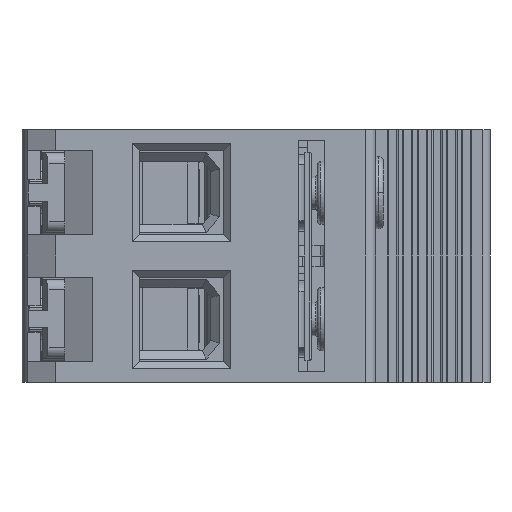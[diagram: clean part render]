
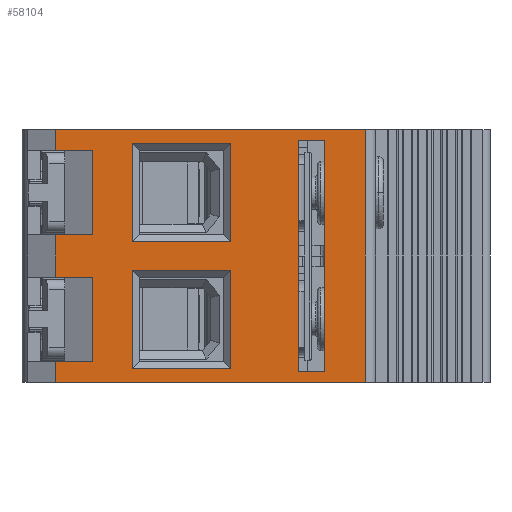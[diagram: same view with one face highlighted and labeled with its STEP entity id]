
A CAD part, left-side view. The second image highlights one B-rep face of the part: STEP entity #58104.
In plain terms, the highlighted planar face has unit normal (-1, 0, 0).
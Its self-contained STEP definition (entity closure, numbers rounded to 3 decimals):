
#672=DIRECTION('',(0.,0.,1.));
#673=VECTOR('',#672,33.);
#674=CARTESIAN_POINT('',(0.,10.95,-34.5));
#675=LINE('',#674,#673);
#700=DIRECTION('',(0.,1.,0.));
#701=VECTOR('',#700,3.6);
#702=CARTESIAN_POINT('',(0.,7.35,-34.5));
#703=LINE('',#702,#701);
#1428=DIRECTION('',(0.,0.,1.));
#1429=VECTOR('',#1428,14.);
#1430=CARTESIAN_POINT('',(0.,34.7,-34.));
#1431=LINE('',#1430,#1429);
#1444=DIRECTION('',(0.,1.,0.));
#1445=VECTOR('',#1444,44.1);
#1446=CARTESIAN_POINT('',(0.,1.5,-36.));
#1447=LINE('',#1446,#1445);
#1448=DIRECTION('',(0.,0.,1.));
#1449=VECTOR('',#1448,12.);
#1450=CARTESIAN_POINT('',(0.,40.3,-33.));
#1451=LINE('',#1450,#1449);
#1452=DIRECTION('',(0.,1.,0.));
#1453=VECTOR('',#1452,5.3);
#1454=CARTESIAN_POINT('',(0.,40.3,-21.));
#1455=LINE('',#1454,#1453);
#1456=DIRECTION('',(0.,0.,1.));
#1457=VECTOR('',#1456,12.);
#1458=CARTESIAN_POINT('',(0.,40.3,-15.));
#1459=LINE('',#1458,#1457);
#1460=DIRECTION('',(0.,1.,0.));
#1461=VECTOR('',#1460,5.3);
#1462=CARTESIAN_POINT('',(0.,40.3,-3.));
#1463=LINE('',#1462,#1461);
#1464=DIRECTION('',(0.,0.,1.));
#1465=VECTOR('',#1464,3.);
#1466=CARTESIAN_POINT('',(0.,45.6,-3.));
#1467=LINE('',#1466,#1465);
#1468=DIRECTION('',(0.,0.,1.));
#1469=VECTOR('',#1468,33.);
#1470=CARTESIAN_POINT('',(0.,7.35,-34.5));
#1471=LINE('',#1470,#1469);
#1472=DIRECTION('',(0.,1.,0.));
#1473=VECTOR('',#1472,3.6);
#1474=CARTESIAN_POINT('',(0.,7.35,-1.5));
#1475=LINE('',#1474,#1473);
#1476=DIRECTION('',(0.,-1.,0.));
#1477=VECTOR('',#1476,14.);
#1478=CARTESIAN_POINT('',(0.,34.7,-34.));
#1479=LINE('',#1478,#1477);
#1480=DIRECTION('',(0.,0.,1.));
#1481=VECTOR('',#1480,14.);
#1482=CARTESIAN_POINT('',(0.,20.7,-34.));
#1483=LINE('',#1482,#1481);
#1484=DIRECTION('',(0.,1.,0.));
#1485=VECTOR('',#1484,14.);
#1486=CARTESIAN_POINT('',(0.,20.7,-20.));
#1487=LINE('',#1486,#1485);
#1488=DIRECTION('',(0.,-1.,0.));
#1489=VECTOR('',#1488,14.);
#1490=CARTESIAN_POINT('',(0.,34.7,-16.));
#1491=LINE('',#1490,#1489);
#1492=DIRECTION('',(0.,0.,1.));
#1493=VECTOR('',#1492,14.);
#1494=CARTESIAN_POINT('',(0.,20.7,-16.));
#1495=LINE('',#1494,#1493);
#1496=DIRECTION('',(0.,1.,0.));
#1497=VECTOR('',#1496,14.);
#1498=CARTESIAN_POINT('',(0.,20.7,-2.));
#1499=LINE('',#1498,#1497);
#3575=DIRECTION('',(0.,1.,0.));
#3576=VECTOR('',#3575,44.1);
#3577=CARTESIAN_POINT('',(0.,1.5,0.));
#3578=LINE('',#3577,#3576);
#5256=DIRECTION('',(0.,0.,1.));
#5257=VECTOR('',#5256,36.);
#5258=CARTESIAN_POINT('',(0.,1.5,-36.));
#5259=LINE('',#5258,#5257);
#8470=DIRECTION('',(0.,1.,0.));
#8471=VECTOR('',#8470,5.3);
#8472=CARTESIAN_POINT('',(0.,40.3,-15.));
#8473=LINE('',#8472,#8471);
#9396=DIRECTION('',(0.,0.,-1.));
#9397=VECTOR('',#9396,6.);
#9398=CARTESIAN_POINT('',(0.,45.6,-15.));
#9399=LINE('',#9398,#9397);
#9539=DIRECTION('',(0.,1.,0.));
#9540=VECTOR('',#9539,5.3);
#9541=CARTESIAN_POINT('',(0.,40.3,-33.));
#9542=LINE('',#9541,#9540);
#10980=DIRECTION('',(0.,0.,-1.));
#10981=VECTOR('',#10980,3.);
#10982=CARTESIAN_POINT('',(0.,45.6,-33.));
#10983=LINE('',#10982,#10981);
#18571=DIRECTION('',(0.,0.,1.));
#18572=VECTOR('',#18571,14.);
#18573=CARTESIAN_POINT('',(0.,34.7,-16.));
#18574=LINE('',#18573,#18572);
#43566=CARTESIAN_POINT('',(0.,1.5,0.));
#43568=VERTEX_POINT('',#43566);
#43569=CARTESIAN_POINT('',(0.,45.6,0.));
#43570=VERTEX_POINT('',#43569);
#44479=CARTESIAN_POINT('',(0.,10.95,-1.5));
#44480=VERTEX_POINT('',#44479);
#44481=CARTESIAN_POINT('',(0.,7.35,-1.5));
#44482=VERTEX_POINT('',#44481);
#44658=CARTESIAN_POINT('',(0.,34.7,-16.));
#44659=VERTEX_POINT('',#44658);
#44660=CARTESIAN_POINT('',(0.,34.7,-2.));
#44661=VERTEX_POINT('',#44660);
#44662=CARTESIAN_POINT('',(0.,20.7,-16.));
#44663=VERTEX_POINT('',#44662);
#44664=CARTESIAN_POINT('',(0.,40.3,-3.));
#44665=CARTESIAN_POINT('',(0.,45.6,-3.));
#44666=VERTEX_POINT('',#44664);
#44667=VERTEX_POINT('',#44665);
#44668=CARTESIAN_POINT('',(0.,20.7,-2.));
#44669=VERTEX_POINT('',#44668);
#46717=CARTESIAN_POINT('',(0.,45.6,-15.));
#46719=VERTEX_POINT('',#46717);
#47149=CARTESIAN_POINT('',(0.,40.3,-15.));
#47150=VERTEX_POINT('',#47149);
#47275=CARTESIAN_POINT('',(0.,1.5,-36.));
#47277=VERTEX_POINT('',#47275);
#48155=CARTESIAN_POINT('',(0.,34.7,-34.));
#48156=VERTEX_POINT('',#48155);
#48157=CARTESIAN_POINT('',(0.,34.7,-20.));
#48158=VERTEX_POINT('',#48157);
#48159=CARTESIAN_POINT('',(0.,20.7,-34.));
#48160=VERTEX_POINT('',#48159);
#48161=CARTESIAN_POINT('',(0.,40.3,-21.));
#48162=CARTESIAN_POINT('',(0.,45.6,-21.));
#48163=VERTEX_POINT('',#48161);
#48164=VERTEX_POINT('',#48162);
#48165=CARTESIAN_POINT('',(0.,20.7,-20.));
#48166=VERTEX_POINT('',#48165);
#49755=CARTESIAN_POINT('',(0.,45.6,-36.));
#49756=VERTEX_POINT('',#49755);
#50518=CARTESIAN_POINT('',(0.,45.6,-33.));
#50519=VERTEX_POINT('',#50518);
#50896=CARTESIAN_POINT('',(0.,10.95,-34.5));
#50898=VERTEX_POINT('',#50896);
#50905=CARTESIAN_POINT('',(0.,7.35,-34.5));
#50907=VERTEX_POINT('',#50905);
#51164=CARTESIAN_POINT('',(0.,40.3,-33.));
#51165=VERTEX_POINT('',#51164);
#58047=CARTESIAN_POINT('',(0.,50.4,-18.));
#58048=DIRECTION('',(-1.,0.,0.));
#58049=DIRECTION('',(0.,-1.,0.));
#58050=AXIS2_PLACEMENT_3D('',#58047,#58048,#58049);
#58051=PLANE('',#58050);
#58053=ORIENTED_EDGE('',*,*,#58052,.T.);
#58055=ORIENTED_EDGE('',*,*,#58054,.F.);
#58057=ORIENTED_EDGE('',*,*,#58056,.F.);
#58059=ORIENTED_EDGE('',*,*,#58058,.T.);
#58061=ORIENTED_EDGE('',*,*,#58060,.T.);
#58063=ORIENTED_EDGE('',*,*,#58062,.F.);
#58065=ORIENTED_EDGE('',*,*,#58064,.F.);
#58067=ORIENTED_EDGE('',*,*,#58066,.T.);
#58069=ORIENTED_EDGE('',*,*,#58068,.T.);
#58071=ORIENTED_EDGE('',*,*,#58070,.T.);
#58073=ORIENTED_EDGE('',*,*,#58072,.F.);
#58075=ORIENTED_EDGE('',*,*,#58074,.F.);
#58076=EDGE_LOOP('',(#58053,#58055,#58057,#58059,#58061,#58063,#58065,#58067,
#58069,#58071,#58073,#58075));
#58077=FACE_OUTER_BOUND('',#58076,.F.);
#58078=ORIENTED_EDGE('',*,*,#56842,.F.);
#58079=ORIENTED_EDGE('',*,*,#57082,.F.);
#58081=ORIENTED_EDGE('',*,*,#58080,.T.);
#58083=ORIENTED_EDGE('',*,*,#58082,.T.);
#58084=EDGE_LOOP('',(#58078,#58079,#58081,#58083));
#58085=FACE_BOUND('',#58084,.F.);
#58086=ORIENTED_EDGE('',*,*,#58038,.T.);
#58088=ORIENTED_EDGE('',*,*,#58087,.T.);
#58090=ORIENTED_EDGE('',*,*,#58089,.T.);
#58091=ORIENTED_EDGE('',*,*,#58025,.F.);
#58092=EDGE_LOOP('',(#58086,#58088,#58090,#58091));
#58093=FACE_BOUND('',#58092,.F.);
#58095=ORIENTED_EDGE('',*,*,#58094,.T.);
#58097=ORIENTED_EDGE('',*,*,#58096,.T.);
#58099=ORIENTED_EDGE('',*,*,#58098,.T.);
#58101=ORIENTED_EDGE('',*,*,#58100,.F.);
#58102=EDGE_LOOP('',(#58095,#58097,#58099,#58101));
#58103=FACE_BOUND('',#58102,.F.);
#58104=ADVANCED_FACE('',(#58077,#58085,#58093,#58103),#58051,.T.);
#56842=EDGE_CURVE('',#50898,#44480,#675,.T.);
#57082=EDGE_CURVE('',#50907,#50898,#703,.T.);
#58025=EDGE_CURVE('',#48156,#48158,#1431,.T.);
#58038=EDGE_CURVE('',#48156,#48160,#1479,.T.);
#58052=EDGE_CURVE('',#47277,#49756,#1447,.T.);
#58054=EDGE_CURVE('',#50519,#49756,#10983,.T.);
#58056=EDGE_CURVE('',#51165,#50519,#9542,.T.);
#58058=EDGE_CURVE('',#51165,#48163,#1451,.T.);
#58060=EDGE_CURVE('',#48163,#48164,#1455,.T.);
#58062=EDGE_CURVE('',#46719,#48164,#9399,.T.);
#58064=EDGE_CURVE('',#47150,#46719,#8473,.T.);
#58066=EDGE_CURVE('',#47150,#44666,#1459,.T.);
#58068=EDGE_CURVE('',#44666,#44667,#1463,.T.);
#58070=EDGE_CURVE('',#44667,#43570,#1467,.T.);
#58072=EDGE_CURVE('',#43568,#43570,#3578,.T.);
#58074=EDGE_CURVE('',#47277,#43568,#5259,.T.);
#58080=EDGE_CURVE('',#50907,#44482,#1471,.T.);
#58082=EDGE_CURVE('',#44482,#44480,#1475,.T.);
#58087=EDGE_CURVE('',#48160,#48166,#1483,.T.);
#58089=EDGE_CURVE('',#48166,#48158,#1487,.T.);
#58094=EDGE_CURVE('',#44659,#44663,#1491,.T.);
#58096=EDGE_CURVE('',#44663,#44669,#1495,.T.);
#58098=EDGE_CURVE('',#44669,#44661,#1499,.T.);
#58100=EDGE_CURVE('',#44659,#44661,#18574,.T.);
